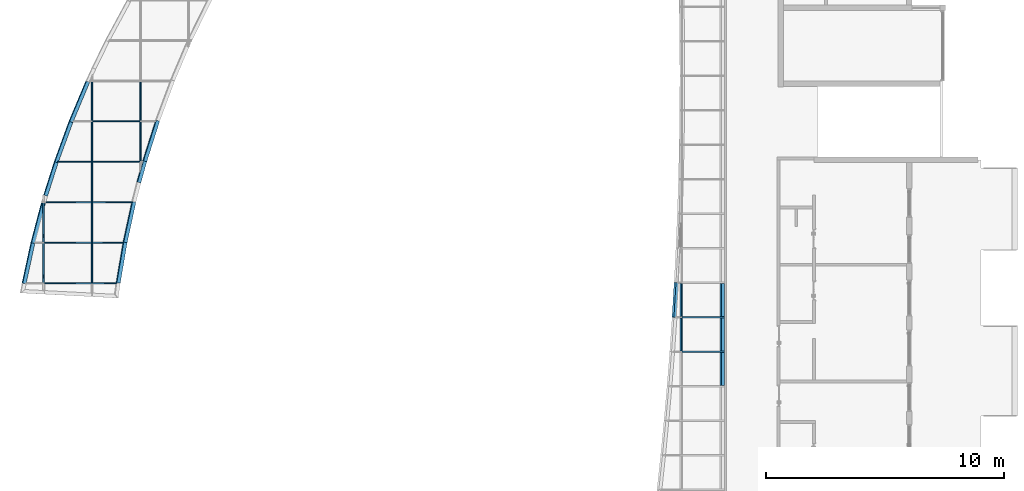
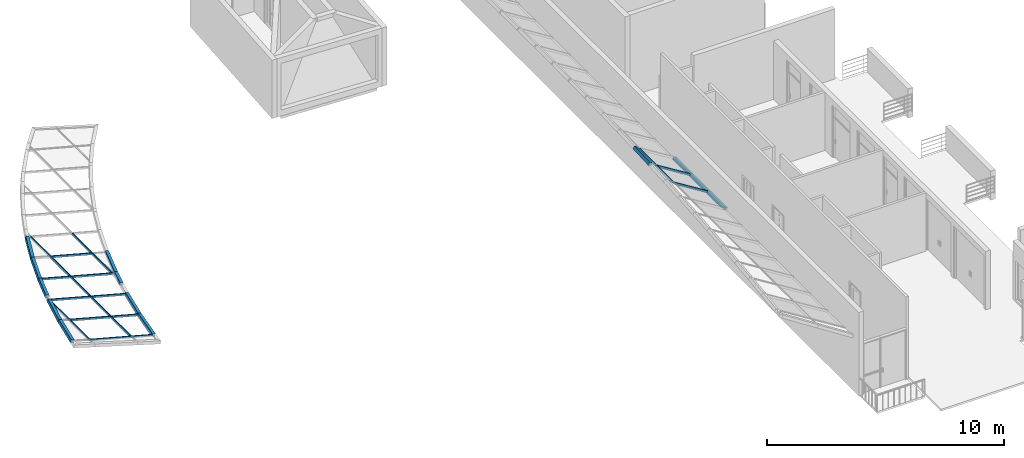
# One storey, part 3 of 33: 35 members, 2 elements without a shape of their own.
"""IFC2X3 building model written with IfcOpenShell, lengths in millimetres."""

import ifcopenshell
import ifcopenshell.guid

model = None  # the IFC model being written
_history = None  # IfcOwnerHistory: only IFC2X3 demands one
_inside = {}  # id of a spatial element -> (the spatial element, [elements in it])
_under = {}  # id of a project, library or spatial element -> (it, [spatial elements below it])
_declared = {}  # id of a project -> (the project, [libraries it declares])
_typed = {}  # id of a type object -> (the type object, [elements of that type])
_made_of = {}  # id of a material, layer set ... -> (it, [elements and type objects made of it])


def new_model(schema):
    """Start an empty IFC model of exactly this schema.

    Asked for "IFC4X3", IfcOpenShell would pick the latest addendum, in which some entities
    have other attributes; the version numbers below select the first issue.
    IFC2X3 requires an IfcOwnerHistory on every rooted entity: one is made here for all.
    """
    global model, _history
    if schema == "IFC4X3":
        model = ifcopenshell.file(schema_version=(4, 3, 0, 0))
    else:
        model = ifcopenshell.file(schema=schema)
    _inside.clear()
    _under.clear()
    _declared.clear()
    _typed.clear()
    _made_of.clear()
    _history = None
    if model.schema == "IFC2X3":
        org = make("IfcOrganization", Name="unknown")
        user = make(
            "IfcPersonAndOrganization",
            ThePerson=make("IfcPerson", FamilyName="unknown"),
            TheOrganization=org,
        )
        app = make(
            "IfcApplication",
            ApplicationDeveloper=org,
            Version="unknown",
            ApplicationFullName="unknown",
            ApplicationIdentifier="unknown",
        )
        _history = make(
            "IfcOwnerHistory",
            OwningUser=user,
            OwningApplication=app,
            ChangeAction="ADDED",
            CreationDate=0,
        )
    return model


def make(cls, **values):
    """One entity of the class cls with the attributes given. An attribute that is None is left unset."""
    return model.create_entity(
        cls, **{name: value for name, value in values.items() if value is not None}
    )


def entity(cls, *values):
    """Any entity or typed value of the class cls, its attributes in the order of the schema. None: left unset."""
    e = model.create_entity(cls)
    for i, value in enumerate(values):
        if value is not None:
            e[i] = value
    return e


def rooted(cls, **values):
    """An entity with a GlobalId (a new one), such as an element, a storey or a relation."""
    return make(cls, GlobalId=ifcopenshell.guid.new(), OwnerHistory=_history, **values)


def si_unit(unit_type, name, prefix=None):
    """IfcSIUnit, for example si_unit("LENGTHUNIT", "METRE", prefix="MILLI")."""
    return make("IfcSIUnit", UnitType=unit_type, Prefix=prefix, Name=name)


def converted_unit(unit_type, name, factor, base, dimensions=None, offset=None):
    """IfcConversionBasedUnit, such as the inch: factor (a typed value) times the base unit."""
    return make(
        "IfcConversionBasedUnit"
        if offset is None
        else "IfcConversionBasedUnitWithOffset",
        ConversionOffset=offset,
        Dimensions=None
        if dimensions is None
        else entity("IfcDimensionalExponents", *dimensions),
        UnitType=unit_type,
        Name=name,
        ConversionFactor=make(
            "IfcMeasureWithUnit", ValueComponent=factor, UnitComponent=base
        ),
    )


def derived_unit(unit_type, elements):
    """IfcDerivedUnit: a product of units, each with its exponent."""
    return make(
        "IfcDerivedUnit",
        Elements=[
            make("IfcDerivedUnitElement", Unit=unit, Exponent=power)
            for unit, power in elements
        ],
        UnitType=unit_type,
    )


def assignment(units):
    """IfcUnitAssignment: the units of a project."""
    return None if units is None else make("IfcUnitAssignment", Units=units)


def point(xyz):
    """IfcCartesianPoint."""
    return None if xyz is None else make("IfcCartesianPoint", Coordinates=xyz)


def direction(xyz):
    """IfcDirection."""
    return None if xyz is None else make("IfcDirection", DirectionRatios=xyz)


def frame(location, z_axis=None, x_axis=None):
    """IfcAxis2Placement3D, a coordinate frame: its origin and axes. An axis left out is left unset."""
    return make(
        "IfcAxis2Placement3D",
        Location=point(location),
        Axis=direction(z_axis),
        RefDirection=direction(x_axis),
    )


def frame_2d(location, x_axis=None):
    """IfcAxis2Placement2D, a coordinate frame in the plane: its origin and x axis."""
    return make(
        "IfcAxis2Placement2D", Location=point(location), RefDirection=direction(x_axis)
    )


def origin():
    """The frame at (0, 0, 0) with its axes left unset."""
    return frame((0.0, 0.0, 0.0))


def origin_2d_with_axis():
    """The frame at (0, 0) in the plane with the x axis (1, 0) written out."""
    return frame_2d((0.0, 0.0), x_axis=(1.0, 0.0))


def place(relative_to, where):
    """IfcLocalPlacement: puts the frame where relative to a parent placement (None: the world)."""
    return make(
        "IfcLocalPlacement", PlacementRelTo=relative_to, RelativePlacement=where
    )


def context(
    kind, dimensions, precision=None, world=None, true_north=None, identifier=None
):
    """IfcGeometricRepresentationContext, for example the 3D "Model" context."""
    return make(
        "IfcGeometricRepresentationContext",
        ContextIdentifier=identifier,
        ContextType=kind,
        CoordinateSpaceDimension=dimensions,
        Precision=precision,
        WorldCoordinateSystem=world,
        TrueNorth=true_north,
    )


def subcontext(parent, identifier, kind, view, scale=None):
    """IfcGeometricRepresentationSubContext, for example "Body" below "Model"."""
    return make(
        "IfcGeometricRepresentationSubContext",
        ContextIdentifier=identifier,
        ContextType=kind,
        ParentContext=parent,
        TargetScale=scale,
        TargetView=view,
    )


def project(units=None, contexts=None):
    """IfcProject with its units and contexts."""
    return rooted(
        "IfcProject",
        Name="project",
        RepresentationContexts=contexts,
        UnitsInContext=assignment(units),
    )


def spatial(cls, under=None, at=None, **own):
    """A site, building, storey or space (cls), placed at a placement, below another one or the project."""
    s = rooted(cls, ObjectPlacement=at, **own)
    if under is not None:
        _under.setdefault(under.id(), (under, []))[1].append(s)
    return s


def polyline(points):
    """IfcPolyline through the points."""
    return make("IfcPolyline", Points=[point(p) for p in points])


def profile(cls, at=None, kind="AREA", **sizes):
    """A parametric profile (cls). Its sizes go by their IFC names, for example OverallWidth=200.0."""
    return make(cls, ProfileType=kind, Position=at, **sizes)


def rectangle(**sizes):
    """IfcRectangleProfileDef."""
    return profile("IfcRectangleProfileDef", **sizes)


def extrude(swept, where, along, depth):
    """IfcExtrudedAreaSolid: the profile swept, set in the frame where, extruded along a direction by depth."""
    return make(
        "IfcExtrudedAreaSolid",
        SweptArea=swept,
        Position=where,
        ExtrudedDirection=direction(along),
        Depth=depth,
    )


def clip(a, b, op="DIFFERENCE"):
    """IfcBooleanClippingResult: the solid a cut by the half space b."""
    return make(
        "IfcBooleanClippingResult", Operator=op, FirstOperand=a, SecondOperand=b
    )


def halfspace(plane, agree):
    """IfcHalfSpaceSolid: all space on one side of the plane z = 0 of the frame plane."""
    return make(
        "IfcHalfSpaceSolid",
        BaseSurface=make("IfcPlane", Position=plane),
        AgreementFlag=agree,
    )


def bounded_halfspace(plane, agree, where, boundary):
    """IfcPolygonalBoundedHalfSpace: a half space limited to a polygon's prism."""
    return make(
        "IfcPolygonalBoundedHalfSpace",
        BaseSurface=make("IfcPlane", Position=plane),
        AgreementFlag=agree,
        Position=where,
        PolygonalBoundary=boundary,
    )


def shape(context_of_items, identifier, shape_type, items):
    """IfcShapeRepresentation: the items that make up one representation, for example the "Body"."""
    return make(
        "IfcShapeRepresentation",
        ContextOfItems=context_of_items,
        RepresentationIdentifier=identifier,
        RepresentationType=shape_type,
        Items=items,
    )


def source(mapping_origin, context_of_items, identifier, shape_type, items):
    """IfcRepresentationMap: a shape defined once, which mapped items show again and again."""
    return make(
        "IfcRepresentationMap",
        MappingOrigin=mapping_origin,
        MappedRepresentation=shape(context_of_items, identifier, shape_type, items),
    )


def transform(
    local_origin,
    x_axis=None,
    y_axis=None,
    z_axis=None,
    scale=None,
    scale2=None,
    scale3=None,
    uniform=True,
):
    """IfcCartesianTransformationOperator3D, or its non-uniform kind. x_axis, y_axis, z_axis: its Axis1, 2, 3."""
    if uniform:
        return make(
            "IfcCartesianTransformationOperator3D",
            Axis1=direction(x_axis),
            Axis2=direction(y_axis),
            LocalOrigin=point(local_origin),
            Scale=scale,
            Axis3=direction(z_axis),
        )
    return make(
        "IfcCartesianTransformationOperator3DnonUniform",
        Axis1=direction(x_axis),
        Axis2=direction(y_axis),
        LocalOrigin=point(local_origin),
        Scale=scale,
        Axis3=direction(z_axis),
        Scale2=scale2,
        Scale3=scale3,
    )


def mapped(mapping_source, mapping_target):
    """IfcMappedItem: shows the shape of a source again, moved by a transform."""
    return make(
        "IfcMappedItem", MappingSource=mapping_source, MappingTarget=mapping_target
    )


def material(Name=None, Category=None):
    """IfcMaterial."""
    return make("IfcMaterial", Name=Name, Category=Category)


def made_of(thing, what):
    """Note that an element or type object is made of a material, layer set ...; save() writes the relation."""
    if what is not None:
        _made_of.setdefault(what.id(), (what, []))[1].append(thing)
    return thing


def type_object(cls, material=None, **own):
    """A type object (cls), such as IfcWallType, which elements share."""
    return made_of(rooted(cls, **own), material)


def type_shapes(of_type, sources):
    """Give a type object the sources (RepresentationMaps) that its elements show as mapped items."""
    of_type.RepresentationMaps = sources


def element(
    cls,
    number,
    at=None,
    inside=None,
    cuts=None,
    type_object=None,
    material=None,
    context=None,
    identifier="Body",
    shape_type=None,
    held_by="IfcProductDefinitionShape",
    body=None,
    shapes=None,
    **own,
):
    """One element of the class cls, such as IfcWall. Its Tag is "e" and its number.

    at: its placement. inside: the storey or other place that contains it. cuts: it is an
    opening in that element (IfcRelVoidsElement). A single representation is given by context,
    identifier, shape_type and body (its items); several are given by shapes. held_by: the class
    of the entity that holds the representations. save() writes the other relations.
    """
    e = rooted(cls, Tag="e%d" % number, ObjectPlacement=at, **own)
    if body is not None:
        shapes = [shape(context, identifier, shape_type, body)]
    if shapes is not None:
        e.Representation = make(held_by, Representations=shapes)
    if inside is not None:
        _inside.setdefault(inside.id(), (inside, []))[1].append(e)
    if cuts is not None:
        rooted(
            "IfcRelVoidsElement", RelatingBuildingElement=cuts, RelatedOpeningElement=e
        )
    if type_object is not None:
        _typed.setdefault(type_object.id(), (type_object, []))[1].append(e)
    return made_of(e, material)


def aggregate(whole, parts):
    """IfcRelAggregates: a whole, such as a stair, and the parts it consists of."""
    return rooted("IfcRelAggregates", RelatingObject=whole, RelatedObjects=parts)


def save(model, path):
    """Write the relations noted so far, then the file.

    IfcRelAggregates (storeys below a building ...), IfcRelContainedInSpatialStructure (elements
    in a storey), IfcRelDefinesByType, IfcRelAssociatesMaterial and IfcRelDeclares: one each for
    every whole, place, type object, material and project.
    """
    for whole, parts in _under.values():
        aggregate(whole, parts)
    for where, things in _inside.values():
        rooted(
            "IfcRelContainedInSpatialStructure",
            RelatedElements=things,
            RelatingStructure=where,
        )
    for kind, things in _typed.values():
        rooted("IfcRelDefinesByType", RelatedObjects=things, RelatingType=kind)
    for what, things in _made_of.values():
        rooted("IfcRelAssociatesMaterial", RelatedObjects=things, RelatingMaterial=what)
    for by, libraries in _declared.values():
        rooted("IfcRelDeclares", RelatingContext=by, RelatedDefinitions=libraries)
    model.write(path)


model = new_model("IFC2X3")

# Units and contexts
model_context = context("Model", 3, precision=0.01, world=origin(), true_north=direction((6.12303176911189e-17, 1.0)))
body_context = subcontext(model_context, "Body", "Model", "MODEL_VIEW")
ifc_project = project(units=[si_unit("LENGTHUNIT", "METRE", prefix="MILLI"), si_unit("AREAUNIT", "SQUARE_METRE"), si_unit("VOLUMEUNIT", "CUBIC_METRE"), converted_unit("PLANEANGLEUNIT", "DEGREE", entity("IfcRatioMeasure", 0.0174532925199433), si_unit("PLANEANGLEUNIT", "RADIAN"), dimensions=[0, 0, 0, 0, 0, 0, 0]), si_unit("MASSUNIT", "GRAM", prefix="KILO"), derived_unit("MASSDENSITYUNIT", [(si_unit("MASSUNIT", "GRAM", prefix="KILO"), 1), (si_unit("LENGTHUNIT", "METRE"), -3)]), si_unit("TIMEUNIT", "SECOND"), si_unit("FREQUENCYUNIT", "HERTZ"), si_unit("THERMODYNAMICTEMPERATUREUNIT", "DEGREE_CELSIUS"), derived_unit("THERMALTRANSMITTANCEUNIT", [(si_unit("MASSUNIT", "GRAM", prefix="KILO"), 1), (si_unit("THERMODYNAMICTEMPERATUREUNIT", "KELVIN"), -1), (si_unit("TIMEUNIT", "SECOND"), -3)]), derived_unit("VOLUMETRICFLOWRATEUNIT", [(si_unit("LENGTHUNIT", "METRE"), 3), (si_unit("TIMEUNIT", "SECOND"), -1)]), si_unit("ELECTRICCURRENTUNIT", "AMPERE"), si_unit("ELECTRICVOLTAGEUNIT", "VOLT"), si_unit("POWERUNIT", "WATT"), si_unit("FORCEUNIT", "NEWTON", prefix="KILO"), si_unit("ILLUMINANCEUNIT", "LUX"), si_unit("LUMINOUSFLUXUNIT", "LUMEN"), si_unit("LUMINOUSINTENSITYUNIT", "CANDELA"), derived_unit("USERDEFINED", [(si_unit("MASSUNIT", "GRAM", prefix="KILO"), -1), (si_unit("LENGTHUNIT", "METRE"), -2), (si_unit("TIMEUNIT", "SECOND"), 3), (si_unit("LUMINOUSFLUXUNIT", "LUMEN"), 1)]), derived_unit("LINEARVELOCITYUNIT", [(si_unit("LENGTHUNIT", "METRE"), 1), (si_unit("TIMEUNIT", "SECOND"), -1)]), si_unit("PRESSUREUNIT", "PASCAL"), derived_unit("USERDEFINED", [(si_unit("LENGTHUNIT", "METRE"), -2), (si_unit("MASSUNIT", "GRAM", prefix="KILO"), 1), (si_unit("TIMEUNIT", "SECOND"), -2)])], contexts=[model_context])

# Site, building, storey
site_placement = place(None, origin())
site = spatial("IfcSite", under=ifc_project, at=site_placement, Name="表面", CompositionType="ELEMENT")
building_placement = place(site_placement, origin())
building = spatial("IfcBuilding", under=site, at=building_placement, CompositionType="ELEMENT")
storey_placement = place(building_placement, frame((0.0, 0.0, 6000.0)))
storey = spatial("IfcBuildingStorey", under=building, at=storey_placement, Name="3F", CompositionType="ELEMENT", Elevation=6000.00000000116)

# Curtain wall, members
curtain_wall_type_1 = type_object("IfcCurtainWallType", Name="幕墙系统:1450 x 2100mm", PredefinedType="NOTDEFINED")
curtain_wall_1_placement = place(storey_placement, frame((0.0, 0.0, -6000.0)))
curtain_wall_1 = element("IfcCurtainWall", 1, at=curtain_wall_1_placement, inside=storey, type_object=curtain_wall_type_1, Name="幕墙系统:1450 x 2100mm", ObjectType="幕墙系统:1450 x 2100mm")
ifc_material_1 = material(Name="金属 - 铝")
member_type_1 = type_object("IfcMemberType", Name="50 x 100mm", PredefinedType="MEMBER")
shared_shape_1 = source(origin(), body_context, "Body", "SweptSolid", [
    extrude(rectangle(XDim=100.0, YDim=50.0, at=origin_2d_with_axis()), frame((0.0, 0.0, -1400.0), z_axis=(0.0, 0.0, 1.0), x_axis=(0.0, -1.0, 0.0)), (0.0, 0.0, 1.0), 1400.0),
])
type_shapes(member_type_1, [shared_shape_1])
placement = place(building_placement, frame((0.0, 0.0, 9000.0)))
member_1_placement = place(placement, frame((-16211.1509145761, -13895.8979069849, 826.048296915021), z_axis=(0.0, 1.0, 0.0), x_axis=(-0.848048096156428, 0.0, 0.529919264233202)))
member_1 = element("IfcMember", 2, at=member_1_placement, type_object=member_type_1, material=ifc_material_1, Name="矩形竖梃:50 x 100mm", ObjectType="50 x 100mm", context=body_context, shape_type="MappedRepresentation", body=[
    mapped(shared_shape_1, transform((0.0, 0.0, 0.0), scale=1.0)),
])
member_2_placement = place(placement, frame((-16211.1509145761, -15345.8979069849, 826.048296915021), z_axis=(0.0, 1.0, 0.0), x_axis=(-0.848048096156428, 0.0, 0.529919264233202)))
member_2 = element("IfcMember", 3, at=member_2_placement, type_object=member_type_1, material=ifc_material_1, Name="矩形竖梃:50 x 100mm", ObjectType="50 x 100mm", context=body_context, shape_type="MappedRepresentation", body=[
    mapped(shared_shape_1, transform((0.0, 0.0, 0.0), scale=1.0)),
])
member_type_2 = type_object("IfcMemberType", Name="50 x 100mm", PredefinedType="MEMBER")
shared_shape_2 = source(origin(), body_context, "Body", "SweptSolid", [
    extrude(rectangle(XDim=100.0, YDim=50.0, at=origin_2d_with_axis()), frame((0.0, 0.0, -2100.0), z_axis=(0.0, 0.0, 1.0), x_axis=(0.0, -1.0, 0.0)), (0.0, 0.0, 1.0), 2100.0),
])
type_shapes(member_type_2, [shared_shape_2])
member_3_placement = place(storey_placement, frame((-16211.1509145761, -15320.8979069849, 3826.04829691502), z_axis=(-0.848048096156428, 0.0, 0.529919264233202), x_axis=(0.0, -1.0, 0.0)))
member_3 = element("IfcMember", 4, at=member_3_placement, type_object=member_type_2, material=ifc_material_1, Name="矩形竖梃:50 x 100mm", ObjectType="50 x 100mm", context=body_context, shape_type="MappedRepresentation", body=[
    mapped(shared_shape_2, transform((0.0, 0.0, 0.0), scale=1.0)),
])
member_4_placement = place(storey_placement, frame((-16211.1509145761, -16770.8979069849, 3826.04829691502), z_axis=(-0.848048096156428, 0.0, 0.529919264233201), x_axis=(0.0, -1.0, 0.0)))
member_4 = element("IfcMember", 5, at=member_4_placement, type_object=member_type_2, material=ifc_material_1, Name="矩形竖梃:50 x 100mm", ObjectType="50 x 100mm", context=body_context, shape_type="MappedRepresentation", body=[
    mapped(shared_shape_2, transform((0.0, 0.0, 0.0), scale=1.0)),
])

curtain_wall_type_2 = type_object("IfcCurtainWallType", Name="幕墙系统:1700 x 2100mm", PredefinedType="NOTDEFINED")
curtain_wall_2_placement = place(storey_placement, frame((0.0, 0.0, -6000.0)))
curtain_wall_2 = element("IfcCurtainWall", 6, at=curtain_wall_2_placement, inside=storey, type_object=curtain_wall_type_2, Name="幕墙系统:1700 x 2100mm", ObjectType="幕墙系统:1700 x 2100mm")
member_type_3 = type_object("IfcMemberType", Name="50 x 100mm", PredefinedType="MEMBER")
shared_shape_3 = source(origin(), body_context, "Body", "SweptSolid", [
    extrude(rectangle(XDim=100.0, YDim=50.0, at=origin_2d_with_axis()), frame((0.0, 0.0, -2100.0), z_axis=(0.0, 0.0, 1.0), x_axis=(0.0, -1.0, 0.0)), (0.0, 0.0, 1.0), 2100.0),
])
type_shapes(member_type_3, [shared_shape_3])
member_5_placement = place(storey_placement, frame((-40967.4475716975, -7094.37268692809, 2813.02126990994), z_axis=(-0.965925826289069, 0.0, 0.258819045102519), x_axis=(0.0, -1.0, 0.0)))
member_5 = element("IfcMember", 7, at=member_5_placement, type_object=member_type_3, material=ifc_material_1, Name="矩形竖梃:50 x 100mm", ObjectType="50 x 100mm", context=body_context, shape_type="MappedRepresentation", body=[
    mapped(shared_shape_3, transform((0.0, 0.0, 0.0), scale=1.0)),
])
member_6_placement = place(storey_placement, frame((-40967.4475716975, -8794.3726869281, 2813.02126990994), z_axis=(-0.965925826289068, 0.0, 0.25881904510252), x_axis=(0.0, -1.0, 0.0)))
member_6 = element("IfcMember", 8, at=member_6_placement, type_object=member_type_3, material=ifc_material_1, Name="矩形竖梃:50 x 100mm", ObjectType="50 x 100mm", context=body_context, shape_type="MappedRepresentation", body=[
    mapped(shared_shape_3, transform((0.0, 0.0, 0.0), scale=1.0)),
])
member_7_placement = place(storey_placement, frame((-42995.8918069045, -10494.3726869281, 3356.54126462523), z_axis=(-0.965925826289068, 0.0, 0.25881904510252), x_axis=(0.0, -1.0, 0.0)))
member_7 = element("IfcMember", 9, at=member_7_placement, type_object=member_type_3, material=ifc_material_1, Name="矩形竖梃:50 x 100mm", ObjectType="50 x 100mm", context=body_context, shape_type="MappedRepresentation", body=[
    mapped(shared_shape_3, transform((0.0, 0.0, 0.0), scale=1.0)),
])
member_8_placement = place(storey_placement, frame((-42995.8918069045, -12194.3726869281, 3356.54126462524), z_axis=(-0.965925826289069, 0.0, 0.258819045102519), x_axis=(0.0, -1.0, 0.0)))
member_8 = element("IfcMember", 10, at=member_8_placement, type_object=member_type_3, material=ifc_material_1, Name="矩形竖梃:50 x 100mm", ObjectType="50 x 100mm", context=body_context, shape_type="MappedRepresentation", body=[
    mapped(shared_shape_3, transform((0.0, 0.0, 0.0), scale=1.0)),
])
member_9_placement = place(storey_placement, frame((-42995.8918069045, -13894.3726869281, 3356.54126462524), z_axis=(-0.965925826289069, 0.0, 0.258819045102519), x_axis=(0.0, -1.0, 0.0)))
member_9 = element("IfcMember", 11, at=member_9_placement, type_object=member_type_3, material=ifc_material_1, Name="矩形竖梃:50 x 100mm", ObjectType="50 x 100mm", context=body_context, shape_type="MappedRepresentation", body=[
    mapped(shared_shape_3, transform((0.0, 0.0, 0.0), scale=1.0)),
])

# Member
ifc_material_2 = material(Name="木质 - 木材")
member_type_4 = type_object("IfcMemberType", Name="200 x 150mm", PredefinedType="MEMBER")
shared_shape_4 = source(origin(), body_context, "Body", "SweptSolid", [
    extrude(rectangle(XDim=150.0, YDim=150.0, at=origin_2d_with_axis()), frame((-75.0, 0.0, -1400.0), z_axis=(0.0, 0.0, 1.0), x_axis=(0.0, -1.0, 0.0)), (0.0, 0.0, 1.0), 1400.0),
])
type_shapes(member_type_4, [shared_shape_4])
member_10_placement = place(storey_placement, frame((-14430.2499126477, -15295.8979069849, 2713.21784202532), z_axis=(0.0, -1.0, 0.0), x_axis=(0.848048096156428, 0.0, -0.529919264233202)))
member_10 = element("IfcMember", 12, at=member_10_placement, type_object=member_type_4, material=ifc_material_2, Name="矩形竖梃:200 x 150mm", ObjectType="200 x 150mm", context=body_context, shape_type="MappedRepresentation", body=[
    mapped(shared_shape_4, transform((0.0, 0.0, 0.0), scale=1.0)),
])

member_11_placement = place(storey_placement, frame((-14430.2499126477, -16745.8979069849, 2713.21784202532), z_axis=(0.0, -1.0, 0.0), x_axis=(0.848048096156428, 0.0, -0.529919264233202)))
member_11 = element("IfcMember", 13, at=member_11_placement, type_object=member_type_4, material=ifc_material_2, Name="矩形竖梃:200 x 150mm", ObjectType="200 x 150mm", context=body_context, shape_type="MappedRepresentation", body=[
    mapped(shared_shape_4, transform((0.0, 0.0, 0.0), scale=1.0)),
])

member_12_placement = place(storey_placement, frame((-14430.2499126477, -18195.8979069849, 2713.21784202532), z_axis=(0.0, -1.0, 0.0), x_axis=(0.848048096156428, 0.0, -0.529919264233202)))
member_12 = element("IfcMember", 14, at=member_12_placement, type_object=member_type_4, material=ifc_material_2, Name="矩形竖梃:200 x 150mm", ObjectType="200 x 150mm", context=body_context, shape_type="MappedRepresentation", body=[
    mapped(shared_shape_4, transform((0.0, 0.0, 0.0), scale=1.0)),
])

member_type_5 = type_object("IfcMemberType", Name="200 x 150mm", PredefinedType="MEMBER")
shared_shape_5 = source(origin(), body_context, "Body", "Clipping", [
    clip(clip(extrude(rectangle(XDim=150.0, YDim=150.0, at=frame_2d((0.0, 9.9475983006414e-14), x_axis=(1.0, 0.0))), frame((-75.0, 0.0, -1793.5771648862), z_axis=(0.0, 0.0, 1.0), x_axis=(0.0, -1.0, 0.0)), (0.0, 0.0, 1.0), 1796.36631946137), halfspace(frame((0.0, 304.8, -1789.86438397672), z_axis=(0.0247442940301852, 0.0, -0.999693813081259), x_axis=(0.999693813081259, 0.0, 0.0247442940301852)), False)), halfspace(frame((0.0, 304.8, 0.0), z_axis=(0.018591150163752, 0.0, 0.999827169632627), x_axis=(0.999827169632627, 0.0, -0.018591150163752)), False)),
])
type_shapes(member_type_5, [shared_shape_5])
member_13_placement = place(storey_placement, frame((-38691.5595659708, -8794.3726869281, 2203.1989167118), z_axis=(-0.302218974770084, -0.949792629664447, 0.0809793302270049), x_axis=(0.917429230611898, -0.312880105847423, -0.245824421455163)))
member_13 = element("IfcMember", 15, at=member_13_placement, type_object=member_type_5, material=ifc_material_2, Name="矩形竖梃:200 x 150mm", ObjectType="200 x 150mm", context=body_context, shape_type="MappedRepresentation", body=[
    mapped(shared_shape_5, transform((0.0, 0.0, 0.0), scale=1.0)),
])

member_type_6 = type_object("IfcMemberType", Name="200 x 150mm", PredefinedType="MEMBER")
shared_shape_6 = source(origin(), body_context, "Body", "Clipping", [
    clip(clip(extrude(rectangle(XDim=150.0, YDim=150.0, at=frame_2d((-1.4210854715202e-14, -3.5527136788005e-14), x_axis=(1.0, 0.0))), frame((-75.0, 0.0, -1745.21883660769), z_axis=(0.0, 0.0, 1.0), x_axis=(0.0, -1.0, 0.0)), (0.0, 0.0, 1.0), 1748.78448681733), halfspace(frame((0.0, 304.8, -1742.56412272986), z_axis=(0.0176953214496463, 0.0, -0.999843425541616), x_axis=(0.999843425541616, 0.0, 0.0176953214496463)), False)), halfspace(frame((0.0, 304.8, 0.0), z_axis=(0.0237642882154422, 0.0, 0.99971758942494), x_axis=(0.99971758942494, 0.0, -0.0237642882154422)), False)),
])
type_shapes(member_type_6, [shared_shape_6])
member_14_placement = place(storey_placement, frame((-39514.9290288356, -12194.3726869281, 2423.82009935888), z_axis=(-0.212186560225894, -0.975573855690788, 0.0568552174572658), x_axis=(0.942331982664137, -0.219671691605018, -0.252497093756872)))
member_14 = element("IfcMember", 16, at=member_14_placement, type_object=member_type_6, material=ifc_material_2, Name="矩形竖梃:200 x 150mm", ObjectType="200 x 150mm", context=body_context, shape_type="MappedRepresentation", body=[
    mapped(shared_shape_6, transform((0.0, 0.0, 0.0), scale=1.0)),
])

member_type_7 = type_object("IfcMemberType", Name="200 x 150mm", PredefinedType="MEMBER")
shared_shape_7 = source(origin(), body_context, "Body", "Clipping", [
    clip(clip(extrude(rectangle(XDim=150.0, YDim=150.0, at=frame_2d((-7.105427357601e-15, 1.4210854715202e-14), x_axis=(1.0, 0.0))), frame((-75.0, 0.0, -1729.61221756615), z_axis=(0.0, 0.0, 1.0), x_axis=(0.0, -1.0, 0.0)), (0.0, 0.0, 1.0), 1732.03020615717), halfspace(frame((0.0, 304.799999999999, -1726.0465673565), z_axis=(0.0237642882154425, 0.0, -0.99971758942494), x_axis=(0.99971758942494, 0.0, 0.0237642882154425)), False)), halfspace(frame((0.0, 304.8, 0.0), z_axis=(0.016117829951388, 0.0, 0.999870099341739), x_axis=(0.999870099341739, 0.0, -0.016117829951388)), False)),
])
type_shapes(member_type_7, [shared_shape_7])
member_15_placement = place(storey_placement, frame((-39803.4754267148, -13894.3726869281, 2501.13587364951), z_axis=(-0.167171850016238, -0.984909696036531, 0.0447935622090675), x_axis=(0.951349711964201, -0.173069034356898, -0.254913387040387)))
member_15 = element("IfcMember", 17, at=member_15_placement, type_object=member_type_7, material=ifc_material_2, Name="矩形竖梃:200 x 150mm", ObjectType="200 x 150mm", context=body_context, shape_type="MappedRepresentation", body=[
    mapped(shared_shape_7, transform((0.0, 0.0, 0.0), scale=1.0)),
])

member_type_8 = type_object("IfcMemberType", Name="200 x 150mm", PredefinedType="MEMBER")
shared_shape_8 = source(origin(), body_context, "Body", "Clipping", [
    clip(clip(extrude(rectangle(XDim=150.0, YDim=150.0, at=origin_2d_with_axis()), frame((-75.0, 0.0, -926.418248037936), z_axis=(0.0, 0.0, 1.0), x_axis=(0.0, -1.0, 0.0)), (0.0, 0.0, 1.0), 928.231012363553), halfspace(frame((0.0, 304.799999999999, -923.629093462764), z_axis=(0.0185911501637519, 0.0, -0.999827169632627), x_axis=(0.999827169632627, 0.0, 0.0185911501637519)), False)), halfspace(frame((0.0, 304.800000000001, 0.0), z_axis=(0.0120842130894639, 0.0, 0.99992698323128), x_axis=(0.99992698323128, 0.0, -0.0120842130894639)), False)),
])
type_shapes(member_type_8, [shared_shape_8])
member_16_placement = place(storey_placement, frame((-38939.0033364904, -9681.76565511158, 2269.50127519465), z_axis=(-0.267903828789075, -0.960767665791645, 0.0717846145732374), x_axis=(0.928030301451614, -0.27735445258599, -0.24866496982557)))
member_16 = element("IfcMember", 18, at=member_16_placement, type_object=member_type_8, material=ifc_material_2, Name="矩形竖梃:200 x 150mm", ObjectType="200 x 150mm", context=body_context, shape_type="MappedRepresentation", body=[
    mapped(shared_shape_8, transform((0.0, 0.0, 0.0), scale=1.0)),
])

member_type_9 = type_object("IfcMemberType", Name="200 x 150mm", PredefinedType="MEMBER")
shared_shape_9 = source(origin(), body_context, "Body", "Clipping", [
    clip(clip(extrude(rectangle(XDim=150.0, YDim=150.0, at=frame_2d((0.0, 8.5265128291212e-14), x_axis=(1.0, 0.0))), frame((-75.0, 0.0, -1853.18214731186), z_axis=(0.0, 0.0, 1.0), x_axis=(0.0, -1.0, 0.0)), (0.0, 0.0, 1.0), 1853.18214731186), halfspace(frame((0.0, -304.8, -1853.18214731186), z_axis=(-0.0241789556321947, 0.0, -0.99970764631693), x_axis=(-0.99970764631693, 0.0, 0.0241789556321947)), False)), halfspace(frame((0.0, -304.8, 0.0), z_axis=(-0.0162241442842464, 0.0, 0.999868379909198), x_axis=(-0.999868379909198, 0.0, -0.0162241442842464)), False)),
])
type_shapes(member_type_9, [shared_shape_9])
member_17_placement = place(storey_placement, frame((-41219.2455149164, -5394.3726869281, 2880.49032545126), z_axis=(0.384537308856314, 0.917341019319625, -0.103036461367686), x_axis=(-0.886083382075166, 0.398102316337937, 0.237425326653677)))
member_17 = element("IfcMember", 19, at=member_17_placement, type_object=member_type_9, material=ifc_material_2, Name="矩形竖梃:200 x 150mm", ObjectType="200 x 150mm", context=body_context, shape_type="MappedRepresentation", body=[
    mapped(shared_shape_9, transform((0.0, 0.0, 0.0), scale=1.0)),
])

member_type_10 = type_object("IfcMemberType", Name="200 x 150mm", PredefinedType="MEMBER")
shared_shape_10 = source(origin(), body_context, "Body", "Clipping", [
    clip(clip(extrude(rectangle(XDim=150.0, YDim=150.0, at=frame_2d((-7.105427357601e-15, -6.3948846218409e-14), x_axis=(1.0, 0.0))), frame((-75.0, 0.0, -1817.18247995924), z_axis=(0.0, 0.0, 1.0), x_axis=(0.0, -1.0, 0.0)), (0.0, 0.0, 1.0), 1817.18247995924), halfspace(frame((0.0, -304.8, -1817.18247995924), z_axis=(-0.0216608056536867, 0.0, -0.999765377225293), x_axis=(-0.999765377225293, 0.0, 0.0216608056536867)), False)), halfspace(frame((0.0, -304.8, 0.0), z_axis=(-0.0241789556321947, 0.0, 0.99970764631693), x_axis=(-0.99970764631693, 0.0, -0.0241789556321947)), False)),
])
type_shapes(member_type_10, [shared_shape_10])
member_18_placement = place(placement, frame((-41931.8631906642, -7094.37268692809, 71.4356561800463), z_axis=(0.341251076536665, 0.935514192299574, -0.0914379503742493), x_axis=(-0.903637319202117, 0.353289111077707, 0.24212888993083)))
member_18 = element("IfcMember", 20, at=member_18_placement, type_object=member_type_10, material=ifc_material_2, Name="矩形竖梃:200 x 150mm", ObjectType="200 x 150mm", context=body_context, shape_type="MappedRepresentation", body=[
    mapped(shared_shape_10, transform((0.0, 0.0, 0.0), scale=1.0)),
])

member_type_11 = type_object("IfcMemberType", Name="200 x 150mm", PredefinedType="MEMBER")
shared_shape_11 = source(origin(), body_context, "Body", "Clipping", [
    clip(clip(extrude(rectangle(XDim=150.0, YDim=150.0, at=frame_2d((-7.105427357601e-15, 1.20792265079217e-13), x_axis=(1.0, 0.0))), frame((-75.0, 0.0, -1470.91920435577), z_axis=(0.0, 0.0, 1.0), x_axis=(0.0, -1.0, 0.0)), (0.0, 0.0, 1.0), 1470.91920435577), halfspace(frame((0.0, -304.800000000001, -1470.91920435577), z_axis=(-0.0117739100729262, 0.0, -0.999930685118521), x_axis=(-0.999930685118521, 0.0, 0.0117739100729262)), False)), halfspace(frame((0.0, -304.8, 0.0), z_axis=(-0.0216608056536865, 0.0, 0.999765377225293), x_axis=(-0.999765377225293, 0.0, -0.0216608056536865)), False)),
])
type_shapes(member_type_11, [shared_shape_11])
member_19_placement = place(placement, frame((-42551.9786682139, -8794.37268692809, 237.595097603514), z_axis=(0.301793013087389, 0.949937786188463, -0.0808651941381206), x_axis=(-0.9175694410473, 0.312439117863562, 0.245861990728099)))
member_19 = element("IfcMember", 21, at=member_19_placement, type_object=member_type_11, material=ifc_material_2, Name="矩形竖梃:200 x 150mm", ObjectType="200 x 150mm", context=body_context, shape_type="MappedRepresentation", body=[
    mapped(shared_shape_11, transform((0.0, 0.0, 0.0), scale=1.0)),
])

member_type_12 = type_object("IfcMemberType", Name="200 x 150mm", PredefinedType="MEMBER")
shared_shape_12 = source(origin(), body_context, "Body", "Clipping", [
    clip(clip(extrude(rectangle(XDim=150.0, YDim=150.0, at=frame_2d((7.105427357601e-15, -4.9737991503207e-14), x_axis=(1.0, 0.0))), frame((-75.0, 0.0, -1762.36358398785), z_axis=(0.0, 0.0, 1.0), x_axis=(0.0, -1.0, 0.0)), (0.0, 0.0, 1.0), 1762.36358398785), halfspace(frame((0.0, -304.8, -1762.36358398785), z_axis=(-0.0230869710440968, 0.0, -0.999733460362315), x_axis=(-0.999733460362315, 0.0, 0.0230869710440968)), False)), halfspace(frame((0.0, -304.8, 0.0), z_axis=(-0.0136941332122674, 0.0, 0.999906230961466), x_axis=(-0.999906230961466, 0.0, -0.0136941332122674)), False)),
])
type_shapes(member_type_12, [shared_shape_12])
member_20_placement = place(placement, frame((-43084.4914516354, -10494.3726869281, 380.281467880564), z_axis=(0.254683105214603, 0.964613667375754, -0.0682421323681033), x_axis=(-0.931745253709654, 0.263667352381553, 0.249660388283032)))
member_20 = element("IfcMember", 22, at=member_20_placement, type_object=member_type_12, material=ifc_material_2, Name="矩形竖梃:200 x 150mm", ObjectType="200 x 150mm", context=body_context, shape_type="MappedRepresentation", body=[
    mapped(shared_shape_12, transform((0.0, 0.0, 0.0), scale=1.0)),
])

member_type_13 = type_object("IfcMemberType", Name="200 x 150mm", PredefinedType="MEMBER")
shared_shape_13 = source(origin(), body_context, "Body", "Clipping", [
    clip(clip(extrude(rectangle(XDim=150.0, YDim=150.0, at=frame_2d((0.0, 3.5527136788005e-14), x_axis=(1.0, 0.0))), frame((-75.0, 0.0, -1742.23760749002), z_axis=(0.0, 0.0, 1.0), x_axis=(0.0, -1.0, 0.0)), (0.0, 0.0, 1.0), 1742.23760749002), halfspace(frame((0.0, -304.800000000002, -1742.23760749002), z_axis=(-0.0142015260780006, 0.0, -0.999899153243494), x_axis=(-0.999899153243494, 0.0, 0.0142015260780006)), False)), halfspace(frame((0.0, -304.800000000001, 0.0), z_axis=(-0.0230869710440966, 0.0, 0.999733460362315), x_axis=(-0.999733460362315, 0.0, -0.0230869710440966)), False)),
])
type_shapes(member_type_13, [shared_shape_13])
member_21_placement = place(placement, frame((-43533.3356817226, -12194.3726869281, 500.548916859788), z_axis=(0.211400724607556, 0.975756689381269, -0.0566446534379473), x_axis=(-0.942508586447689, 0.218858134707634, 0.252544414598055)))
member_21 = element("IfcMember", 23, at=member_21_placement, type_object=member_type_13, material=ifc_material_2, Name="矩形竖梃:200 x 150mm", ObjectType="200 x 150mm", context=body_context, shape_type="MappedRepresentation", body=[
    mapped(shared_shape_13, transform((0.0, 0.0, 0.0), scale=1.0)),
])

member_type_14 = type_object("IfcMemberType", Name="50 x 100mm", PredefinedType="MEMBER")
shared_shape_14 = source(origin(), body_context, "Body", "SweptSolid", [
    extrude(rectangle(XDim=100.0, YDim=50.0, at=origin_2d_with_axis()), frame((0.0, 0.0, -1650.0), z_axis=(0.0, 0.0, 1.0), x_axis=(0.0, -1.0, 0.0)), (0.0, 0.0, 1.0), 1649.99999999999),
])
type_shapes(member_type_14, [shared_shape_14])
member_22_placement = place(storey_placement, frame((-38939.0033364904, -5419.3726869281, 2269.50127519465), z_axis=(0.0, 1.0, 0.0), x_axis=(-0.965925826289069, 0.0, 0.258819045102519)))
member_22 = element("IfcMember", 24, at=member_22_placement, type_object=member_type_14, material=ifc_material_1, Name="矩形竖梃:50 x 100mm", ObjectType="50 x 100mm", context=body_context, shape_type="MappedRepresentation", body=[
    mapped(shared_shape_14, transform((0.0, 0.0, 0.0), scale=1.0)),
])

member_23_placement = place(storey_placement, frame((-38939.0033364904, -7119.37268692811, 2269.50127519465), z_axis=(0.0, 1.0, 0.0), x_axis=(-0.965925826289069, 0.0, 0.258819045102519)))
member_23 = element("IfcMember", 25, at=member_23_placement, type_object=member_type_14, material=ifc_material_1, Name="矩形竖梃:50 x 100mm", ObjectType="50 x 100mm", context=body_context, shape_type="MappedRepresentation", body=[
    mapped(shared_shape_14, transform((0.0, 0.0, 0.0), scale=1.0)),
])

member_24_placement = place(storey_placement, frame((-40967.4475716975, -5419.3726869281, 2813.02126990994), z_axis=(0.0, 1.0, 0.0), x_axis=(-0.965925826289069, 0.0, 0.258819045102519)))
member_24 = element("IfcMember", 26, at=member_24_placement, type_object=member_type_14, material=ifc_material_1, Name="矩形竖梃:50 x 100mm", ObjectType="50 x 100mm", context=body_context, shape_type="MappedRepresentation", body=[
    mapped(shared_shape_14, transform((0.0, 0.0, 0.0), scale=1.0)),
])

member_25_placement = place(storey_placement, frame((-40967.4475716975, -7119.37268692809, 2813.02126990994), z_axis=(0.0, 1.0, 0.0), x_axis=(-0.965925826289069, 0.0, 0.258819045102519)))
member_25 = element("IfcMember", 27, at=member_25_placement, type_object=member_type_14, material=ifc_material_1, Name="矩形竖梃:50 x 100mm", ObjectType="50 x 100mm", context=body_context, shape_type="MappedRepresentation", body=[
    mapped(shared_shape_14, transform((0.0, 0.0, 0.0), scale=1.0)),
])

member_26_placement = place(storey_placement, frame((-40967.4475716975, -8819.3726869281, 2813.02126990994), z_axis=(0.0, 1.0, 0.0), x_axis=(-0.965925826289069, 0.0, 0.258819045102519)))
member_26 = element("IfcMember", 28, at=member_26_placement, type_object=member_type_14, material=ifc_material_1, Name="矩形竖梃:50 x 100mm", ObjectType="50 x 100mm", context=body_context, shape_type="MappedRepresentation", body=[
    mapped(shared_shape_14, transform((0.0, 0.0, 0.0), scale=1.0)),
])

member_27_placement = place(storey_placement, frame((-40967.4475716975, -10519.3726869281, 2813.02126990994), z_axis=(0.0, 1.0, 0.0), x_axis=(-0.965925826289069, 0.0, 0.258819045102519)))
member_27 = element("IfcMember", 29, at=member_27_placement, type_object=member_type_14, material=ifc_material_1, Name="矩形竖梃:50 x 100mm", ObjectType="50 x 100mm", context=body_context, shape_type="MappedRepresentation", body=[
    mapped(shared_shape_14, transform((0.0, 0.0, 0.0), scale=1.0)),
])

member_28_placement = place(storey_placement, frame((-40967.4475716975, -12219.3726869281, 2813.02126990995), z_axis=(0.0, 1.0, 0.0), x_axis=(-0.965925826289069, 0.0, 0.258819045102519)))
member_28 = element("IfcMember", 30, at=member_28_placement, type_object=member_type_14, material=ifc_material_1, Name="矩形竖梃:50 x 100mm", ObjectType="50 x 100mm", context=body_context, shape_type="MappedRepresentation", body=[
    mapped(shared_shape_14, transform((0.0, 0.0, 0.0), scale=1.0)),
])

member_29_placement = place(placement, frame((-42995.8918069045, -10519.3726869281, 356.541264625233), z_axis=(0.0, 1.0, 0.0), x_axis=(-0.965925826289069, 0.0, 0.258819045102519)))
member_29 = element("IfcMember", 31, at=member_29_placement, type_object=member_type_14, material=ifc_material_1, Name="矩形竖梃:50 x 100mm", ObjectType="50 x 100mm", context=body_context, shape_type="MappedRepresentation", body=[
    mapped(shared_shape_14, transform((0.0, 0.0, 0.0), scale=1.0)),
])

member_30_placement = place(placement, frame((-42995.8918069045, -12219.3726869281, 356.541264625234), z_axis=(0.0, 1.0, 0.0), x_axis=(-0.965925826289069, 0.0, 0.258819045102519)))
member_30 = element("IfcMember", 32, at=member_30_placement, type_object=member_type_14, material=ifc_material_1, Name="矩形竖梃:50 x 100mm", ObjectType="50 x 100mm", context=body_context, shape_type="MappedRepresentation", body=[
    mapped(shared_shape_14, transform((0.0, 0.0, 0.0), scale=1.0)),
])

member_type_15 = type_object("IfcMemberType", Name="50 x 100mm", PredefinedType="MEMBER")
shared_shape_15 = source(origin(), body_context, "Body", "Clipping", [
    clip(extrude(rectangle(XDim=100.0, YDim=50.0, at=frame_2d((-3.19744231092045e-14, 0.0), x_axis=(1.0, 0.0))), frame((0.0, 0.0, -1640.42730134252), z_axis=(0.0, 0.0, 1.0), x_axis=(0.0, -1.0, 0.0)), (0.0, 0.0, 1.0), 1489.5287116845), halfspace(frame((-1647.00663333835, 75.0, -782.317911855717), z_axis=(-0.353289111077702, 0.0, 0.935514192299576), x_axis=(0.935514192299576, 0.0, 0.353289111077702)), False)),
])
type_shapes(member_type_15, [shared_shape_15])
member_31_placement = place(storey_placement, frame((-42551.9786682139, -8794.37268692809, 3237.59509760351), z_axis=(-0.965925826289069, 0.0, 0.258819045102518), x_axis=(0.0, -1.0, 0.0)))
member_31 = element("IfcMember", 33, at=member_31_placement, type_object=member_type_15, material=ifc_material_1, Name="矩形竖梃:50 x 100mm", ObjectType="50 x 100mm", context=body_context, shape_type="MappedRepresentation", body=[
    mapped(shared_shape_15, transform((0.0, 0.0, 0.0), scale=1.0)),
])

member_type_16 = type_object("IfcMemberType", Name="50 x 100mm", PredefinedType="MEMBER")
shared_shape_16 = source(origin(), body_context, "Body", "Clipping", [
    clip(extrude(rectangle(XDim=100.0, YDim=50.0, at=origin_2d_with_axis()), frame((0.0, 0.0, -1738.42349395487), z_axis=(0.0, 0.0, 1.0), x_axis=(0.0, -1.0, 0.0)), (0.0, 0.0, 1.0), 1738.42349395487), halfspace(frame((1667.04924625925, 75.0, -1357.42177067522), z_axis=(0.219671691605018, 0.0, -0.975573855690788), x_axis=(-0.975573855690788, 0.0, -0.219671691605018)), False)),
])
type_shapes(member_type_16, [shared_shape_16])
member_32_placement = place(storey_placement, frame((-40967.4475716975, -10494.3726869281, 2813.02126990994), z_axis=(-0.965925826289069, 0.0, 0.258819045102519), x_axis=(0.0, -1.0, 0.0)))
member_32 = element("IfcMember", 34, at=member_32_placement, type_object=member_type_16, material=ifc_material_1, Name="矩形竖梃:50 x 100mm", ObjectType="50 x 100mm", context=body_context, shape_type="MappedRepresentation", body=[
    mapped(shared_shape_16, transform((0.0, 0.0, 0.0), scale=1.0)),
])

member_type_17 = type_object("IfcMemberType", Name="50 x 100mm", PredefinedType="MEMBER")
shared_shape_17 = source(origin(), body_context, "Body", "Clipping", [
    clip(extrude(rectangle(XDim=100.0, YDim=50.0, at=origin_2d_with_axis()), frame((0.0, 0.0, -1355.85264033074), z_axis=(0.0, 0.0, 1.0), x_axis=(0.0, -1.0, 0.0)), (0.0, 0.0, 1.0), 1355.85264033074), halfspace(frame((1674.03964484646, 75.0, -1057.29618195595), z_axis=(0.173069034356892, 0.0, -0.984909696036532), x_axis=(-0.984909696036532, 0.0, -0.173069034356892)), False)),
])
type_shapes(member_type_17, [shared_shape_17])
member_33_placement = place(storey_placement, frame((-40967.4475716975, -12194.3726869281, 2813.02126990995), z_axis=(-0.965925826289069, 0.0, 0.258819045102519), x_axis=(0.0, -1.0, 0.0)))
member_33 = element("IfcMember", 35, at=member_33_placement, type_object=member_type_17, material=ifc_material_1, Name="矩形竖梃:50 x 100mm", ObjectType="50 x 100mm", context=body_context, shape_type="MappedRepresentation", body=[
    mapped(shared_shape_17, transform((0.0, 0.0, 0.0), scale=1.0)),
])

member_type_18 = type_object("IfcMemberType", Name="50 x 100mm", PredefinedType="MEMBER")
shared_shape_18 = source(origin(), body_context, "Body", "Clipping", [
    clip(clip(extrude(rectangle(XDim=100.0, YDim=50.0, at=origin_2d_with_axis()), frame((0.0, 0.0, -1057.12742766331), z_axis=(0.0, 0.0, 1.0), x_axis=(0.0, -1.0, 0.0)), (0.0, 0.0, 1.0), 1057.12742766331), bounded_halfspace(frame((598.962594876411, 75.0, -968.063416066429), z_axis=(0.141234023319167, 0.0, -0.989976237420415), x_axis=(-0.989976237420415, 0.0, -0.141234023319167)), False, frame((0.0, 0.0, -1057.12742766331), z_axis=(0.0, 0.0, 1.0), x_axis=(0.0, -1.0, 0.0)), polyline([(-50.0, 25.0), (50.0, 25.0), (50.0, -23.5788547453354), (-50.0, -23.5788547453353), (-50.0, 25.0)]))), bounded_halfspace(frame((-23.5788547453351, 75.0, -1056.87770300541), z_axis=(0.173069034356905, 0.0, -0.984909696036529), x_axis=(-0.984909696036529, 0.0, -0.173069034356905)), False, frame((0.0, 0.0, -1057.12742766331), z_axis=(0.0, 0.0, 1.0), x_axis=(0.0, -1.0, 0.0)), polyline([(50.0, -23.5788547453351), (50.0, -25.0), (-50.0, -25.0), (-50.0, -23.5788547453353), (50.0, -23.5788547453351)]))),
])
type_shapes(member_type_18, [shared_shape_18])
member_34_placement = place(storey_placement, frame((-40967.4475716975, -13894.3726869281, 2813.02126990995), z_axis=(-0.965925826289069, 0.0, 0.25881904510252), x_axis=(0.0, -1.0, 0.0)))
member_34 = element("IfcMember", 36, at=member_34_placement, type_object=member_type_18, material=ifc_material_1, Name="矩形竖梃:50 x 100mm", ObjectType="50 x 100mm", context=body_context, shape_type="MappedRepresentation", body=[
    mapped(shared_shape_18, transform((0.0, 0.0, 0.0), scale=1.0)),
])

aggregate(curtain_wall_2, [member_13, member_14, member_15, member_16, member_17, member_18, member_19, member_20, member_21, member_22, member_23, member_24, member_25, member_26, member_27, member_28, member_29, member_30, member_31, member_5, member_6, member_32, member_33, member_34, member_7, member_8, member_9])

member_type_19 = type_object("IfcMemberType", Name="200 x 150mm", PredefinedType="MEMBER")
shared_shape_19 = source(origin(), body_context, "Body", "Clipping", [
    clip(clip(extrude(rectangle(XDim=150.0, YDim=150.0, at=origin_2d_with_axis()), frame((-75.0, 0.0, -1454.41163867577), z_axis=(0.0, 0.0, 1.0), x_axis=(0.0, -1.0, 0.0)), (0.0, 0.0, 1.0), 1455.22537453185), halfspace(frame((0.0, 304.8, -1453.59780283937), z_axis=(0.00542549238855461, 0.0, -0.99998528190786), x_axis=(0.99998528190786, 0.0, 0.00542549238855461)), False)), halfspace(frame((0.0, 304.8, 0.0), z_axis=(0.00542482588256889, 0.0, 0.999985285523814), x_axis=(0.999985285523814, 0.0, -0.00542482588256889)), False)),
])
type_shapes(member_type_19, [shared_shape_19])
member_35_placement = place(placement, frame((-16475.3705194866, -13870.8979069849, 991.15103019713), z_axis=(0.0596297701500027, 0.997524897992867, -0.0372608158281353), x_axis=(-0.845949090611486, 0.0703141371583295, 0.52860765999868)))
member_35 = element("IfcMember", 37, at=member_35_placement, type_object=member_type_19, material=ifc_material_2, Name="矩形竖梃:200 x 150mm", ObjectType="200 x 150mm", context=body_context, shape_type="MappedRepresentation", body=[
    mapped(shared_shape_19, transform((0.0, 0.0, 0.0), scale=1.0)),
])

aggregate(curtain_wall_1, [member_10, member_11, member_12, member_35, member_1, member_2, member_3, member_4])

save(model, "model.ifc")
